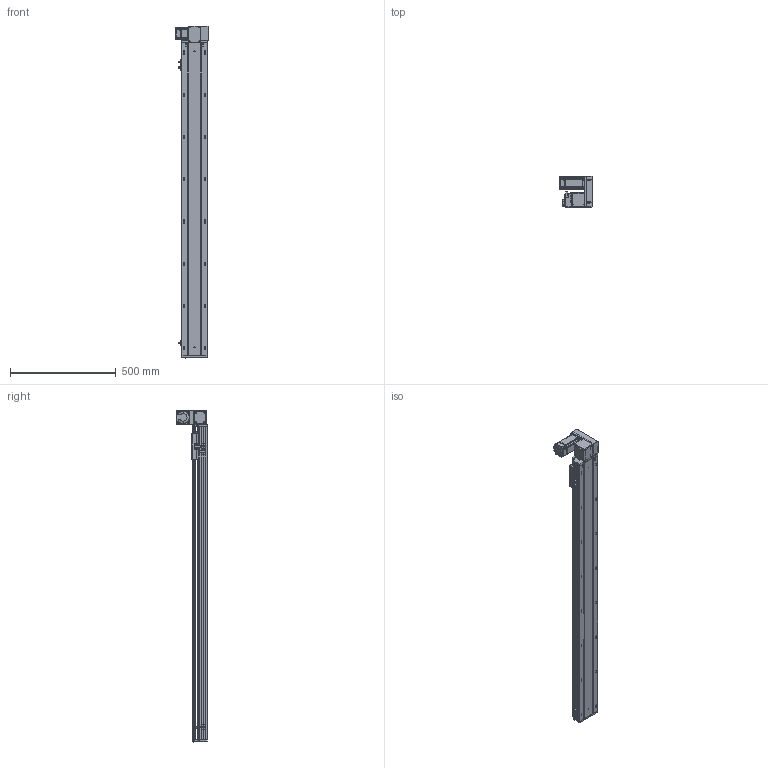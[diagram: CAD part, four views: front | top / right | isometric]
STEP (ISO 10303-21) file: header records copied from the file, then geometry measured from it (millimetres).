
FILE_DESCRIPTION (( 'STEP AP203' ), '1' );
FILE_NAME ('RY120-T-300-UR.SLDASM_1250.step', '2021-03-01T05:57:04', ( '盈信电脑' ), ( '东莞市道滘镇水果街19号' ), 'SwSTEP 2.0', 'SolidWorks 2012', '' );
FILE_SCHEMA (( 'CONFIG_CONTROL_DESIGN' ));
Length unit declared in the file: millimetre
Products named in the file (17): RY120-T萇儂欶; 15; RY120-T蹟翐M4; RY120-T翋肮祭謫裔啣; RY120-T翋肮祭盓傅釱; RY120-T萇儂假蚾啣; 滅袉蝶18-10; RY120-T肮祭湍揤踡輸2; RY120外置感应片(140共用）; RY120-T肮祭湍揤踡輸1; RY120綴裔啣; 覜茼ん672; RY120肮祭湍臏賑輸; RY120-T-300-UR倰第奻裔啣_1250; RY120-T-300-UR倰第菁釱_1250; RY120-T主同步轮轴承压盖; RY120-T-300-UR.SLDASM_1250
Assembly tree (22 placements, depth 2):
  RY120-T-300-UR.SLDASM_1250
    RY120-T-300-UR倰第菁釱_1250
    RY120-T-300-UR倰第奻裔啣_1250
    RY120肮祭湍臏賑輸
    RY120綴裔啣
    覜茼ん672  x3
    RY120外置感应片(140共用）
    RY120-T肮祭湍揤踡輸1
    RY120-T肮祭湍揤踡輸2
    RY120-T翋肮祭盓傅釱
    RY120-T萇儂假蚾啣
    滅袉蝶18-10  x2
    RY120-T翋肮祭謫裔啣
    15
    RY120-T蹟翐M4  x4
    RY120-T萇儂欶
    RY120-T主同步轮轴承压盖
Bounding box: 155.5 x 146 x 1571 mm (x, y, z)
Volume: 4164773.1 mm3; surface area: 1567285.6 mm2
Topology: 23 solids, 23 shells, 2894 faces, 7896 edges, 5054 vertices
Faces by surface type: plane 1426, cylinder 1110, cone 269, bspline 89
Entity records: 92271 total; most frequent: CARTESIAN_POINT 23588, ORIENTED_EDGE 14184, DIRECTION 13418, EDGE_CURVE 7092, VERTEX_POINT 4641, AXIS2_PLACEMENT_3D 4511, LINE 4396, VECTOR 4396
